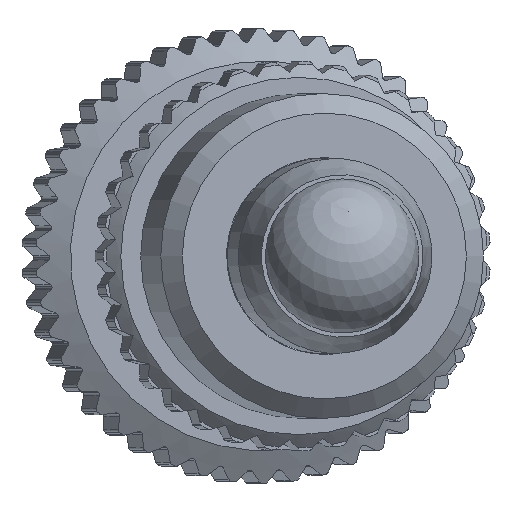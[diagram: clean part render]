
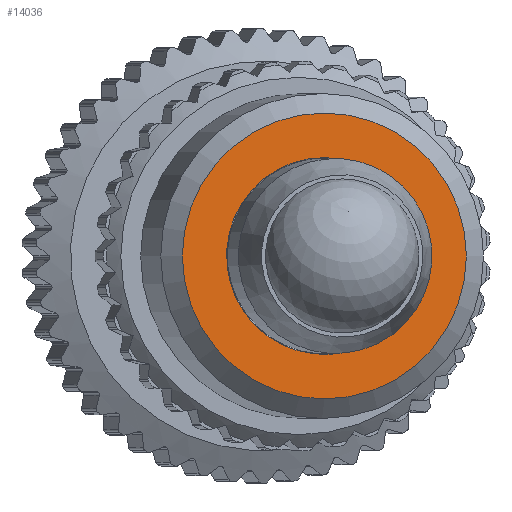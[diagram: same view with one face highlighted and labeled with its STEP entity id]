
A CAD part, left-side view. The second image highlights one B-rep face of the part: STEP entity #14036.
In plain terms, the highlighted planar face has unit normal (-0.993, -0.115, 0).
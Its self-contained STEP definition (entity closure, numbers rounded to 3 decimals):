
#2865=PLANE($,#15130);
#3446=FACE_BOUND($,#4549,.T.);
#3750=FACE_OUTER_BOUND($,#4548,.T.);
#4548=EDGE_LOOP($,(#10865));
#4549=EDGE_LOOP($,(#10866));
#5377=CIRCLE($,#15127,4.4);
#5379=CIRCLE($,#15131,3.03);
#6101=VERTEX_POINT($,#20993);
#6103=VERTEX_POINT($,#20999);
#7852=EDGE_CURVE($,#6101,#6101,#5377,.T.);
#7854=EDGE_CURVE($,#6103,#6103,#5379,.T.);
#10865=ORIENTED_EDGE($,*,*,#7852,.F.);
#10866=ORIENTED_EDGE($,*,*,#7854,.F.);
#14036=ADVANCED_FACE($,(#3750,#3446),#2865,.F.);
#15127=AXIS2_PLACEMENT_3D($,#20994,#17270,#17271);
#15130=AXIS2_PLACEMENT_3D($,#20998,#17276,#17277);
#15131=AXIS2_PLACEMENT_3D($,#21000,#17278,#17279);
#17270=DIRECTION('center_axis',(0.993,0.115,0.));
#17271=DIRECTION('ref_axis',(0.,0.,
-1.));
#17276=DIRECTION('center_axis',(0.993,0.115,0.));
#17277=DIRECTION('ref_axis',(0.,0.,
-1.));
#17278=DIRECTION('center_axis',(-0.993,-0.115,0.));
#17279=DIRECTION('ref_axis',(0.,0.,
-1.));
#20993=CARTESIAN_POINT('',(7.936,-0.836,4.4));
#20994=CARTESIAN_POINT('Origin',(7.936,-0.836,0.));
#20998=CARTESIAN_POINT('Origin',(7.936,-0.836,0.));
#20999=CARTESIAN_POINT('',(7.936,-0.836,3.03));
#21000=CARTESIAN_POINT('Origin',(7.936,-0.836,0.));
